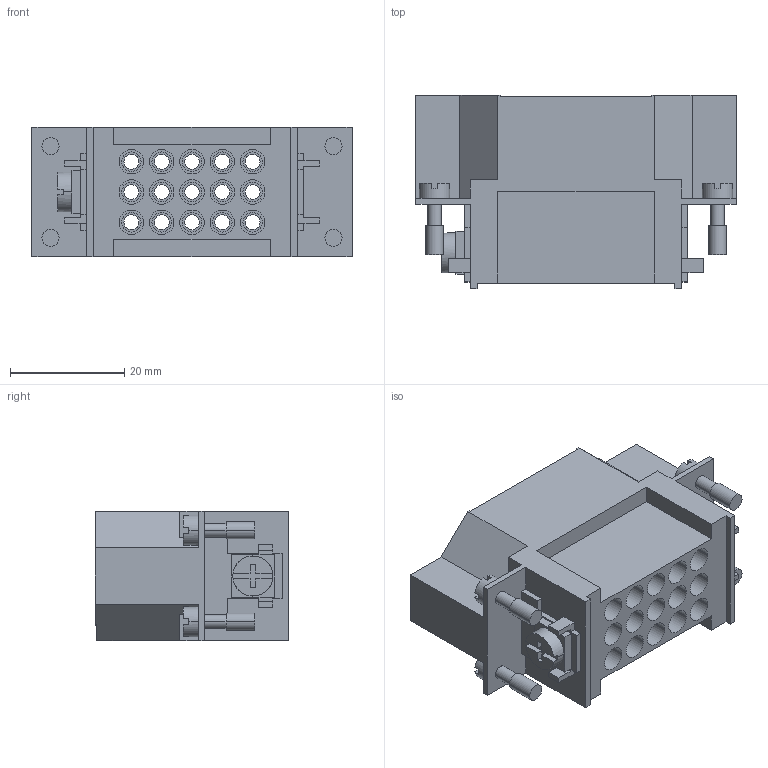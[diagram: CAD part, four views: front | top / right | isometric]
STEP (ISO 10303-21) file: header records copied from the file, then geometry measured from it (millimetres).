
FILE_DESCRIPTION (( 'STEP AP203' ), '1' );
FILE_NAME ('366480.STEP', '2025-06-27T12:06:04', ( '' ), ( '' ), 'SwSTEP 2.0', 'SolidWorks 2018', '' );
FILE_SCHEMA (( 'CONFIG_CONTROL_DESIGN' ));
Length unit declared in the file: millimetre
Products named in the file (1): 366480
Bounding box: 56 x 33.9 x 22.7 mm (x, y, z)
Volume: 16781.8 mm3; surface area: 13138 mm2
Topology: 1 solids, 1 shells, 399 faces, 990 edges, 660 vertices
Faces by surface type: plane 237, cylinder 162
Entity records: 12081 total; most frequent: DIRECTION 2150, CARTESIAN_POINT 2050, ORIENTED_EDGE 1980, EDGE_CURVE 990, AXIS2_PLACEMENT_3D 760, VERTEX_POINT 660, VECTOR 630, LINE 630
